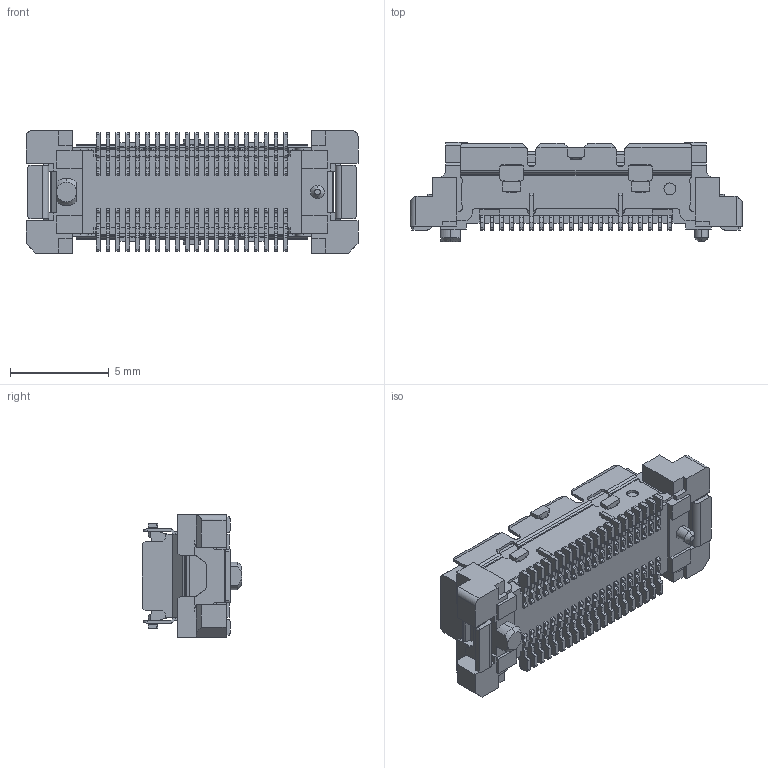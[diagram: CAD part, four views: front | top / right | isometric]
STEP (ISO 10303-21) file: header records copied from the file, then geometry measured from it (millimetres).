
FILE_DESCRIPTION (( 'STEP AP214' ), '1' );
FILE_NAME ('401-51701-5x_3D.STEP', '2018-03-26T09:40:55', ( '' ), ( '' ), 'SwSTEP 2.0', 'SolidWorks 2016', '' );
FILE_SCHEMA (( 'AUTOMOTIVE_DESIGN' ));
Length unit declared in the file: millimetre
Products named in the file (1): 401-51701-5x_3D
Bounding box: 16.8 x 5.05 x 6.2 mm (x, y, z)
Volume: 181.8 mm3; surface area: 704.8 mm2
Topology: 1 solids, 1 shells, 2329 faces, 6871 edges, 4567 vertices
Faces by surface type: plane 1497, cylinder 827, cone 5
Entity records: 103197 total; most frequent: CARTESIAN_POINT 14142, ORIENTED_EDGE 13742, DIRECTION 12968, EDGE_CURVE 6871, LINE 5190, VECTOR 5190, VERTEX_POINT 4567, AXIS2_PLACEMENT_3D 3889
